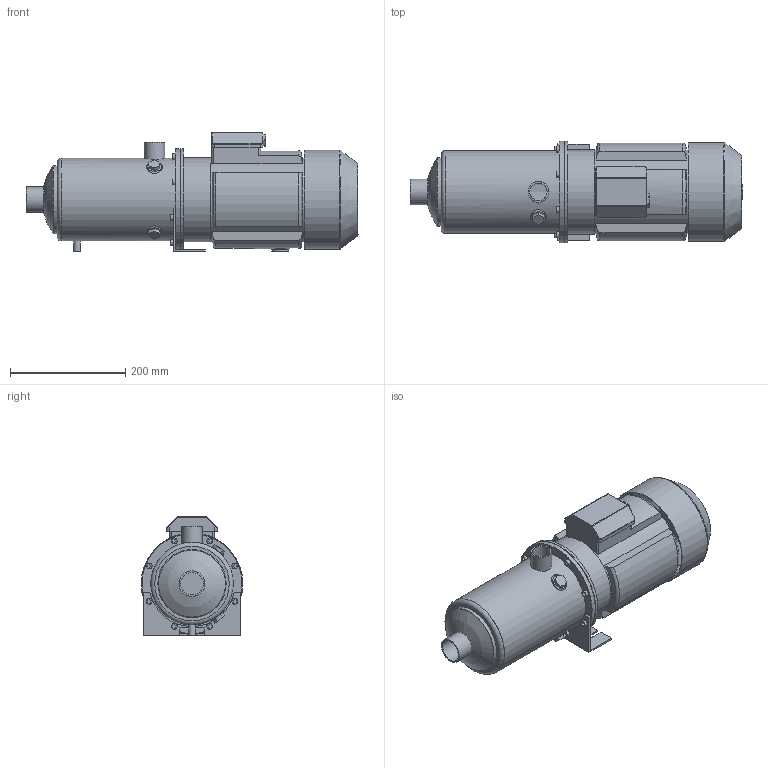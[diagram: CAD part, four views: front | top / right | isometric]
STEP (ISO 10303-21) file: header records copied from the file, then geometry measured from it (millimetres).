
FILE_DESCRIPTION(/* description */ ('Unknown'),/* implementation_level */ '2;1');
FILE_NAME(/* name */ 'MH 5 [8] T',/* time_stamp */ '2026-07-10T14:57:07+02:00',/* author */ ('Unknown'),/* organization */ ('Unknown'),/* preprocessor_version */ 'ST-DEVELOPER v20',/* originating_system */ 'Solid Edge',/* authorisation */ 'Unknown');
FILE_SCHEMA (('AUTOMOTIVE_DESIGN {1 0 10303 214 3 1 1}'));
Length unit declared in the file: millimetre
Products named in the file (10): MH 5 [8] T; Flangia motore Tonda M90; Corpo MH 3-5 [8]; Mot_Wendy_MEC90_22_T; carcassa MEC 90-Wendy; Basetta MEC 90 T-Wendy_new; Copriventola MEC 90-Wendy; Piedino MEC 90 int.90; Staffa 3-5-9 int.90
Assembly tree (8 placements, depth 3):
  MH 5 [8] T
    Flangia motore Tonda M90
    Corpo MH 3-5 [8]
    Mot_Wendy_MEC90_22_T
      carcassa MEC 90-Wendy
      Basetta MEC 90 T-Wendy_new
      Copriventola MEC 90-Wendy
    Piedino MEC 90 int.90
    Staffa 3-5-9 int.90
  (unnamed)
Bounding box: 576.6 x 176.5 x 206.5 mm (x, y, z)
Volume: 2619441.9 mm3; surface area: 702263.4 mm2
Topology: 8 solids, 8 shells, 269 faces, 627 edges, 416 vertices
Faces by surface type: plane 159, cylinder 71, torus 19, cone 14, bspline 4, sphere 2
Full cylindrical faces by diameter (mm): 7 x4, 10 x9, 12 x1, 13.5 x1, 17.5 x1, 21 x1, 30 x1, 30.291 x1, 36 x1, 38.952 x1, 44.5 x1, 116.1 x1, 118.5 x1, 136 x1, 140 x3, 141.1 x1, 143.5 x1, 146 x2, 170 x1, 172 x1, 173.5 x1, 174.1 x1, 176.5 x2
Entity records: 8635 total; most frequent: CARTESIAN_POINT 1558, DIRECTION 1218, ORIENTED_EDGE 1074, EDGE_CURVE 537, AXIS2_PLACEMENT_3D 447, VERTEX_POINT 384, EDGE_LOOP 379, FACE_BOUND 379
